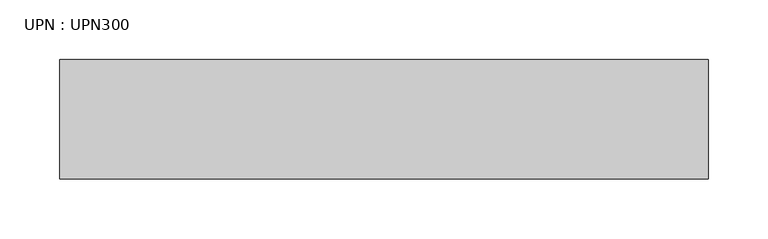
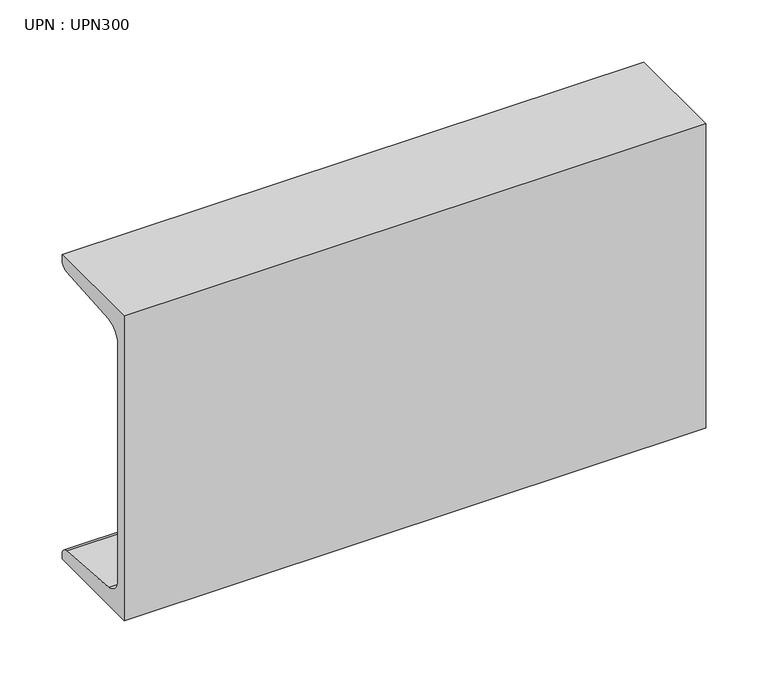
"""IFC4 building model written with IfcOpenShell, lengths in millimetres: beam geometry, UPN : UPN300."""

from ifc_helpers import new_model, si_unit, point, frame, frame_2d, origin, place, context, project, spatial, polyline, circle_curve, trimmed, segment, composite_curve, outline, extrude, source, transform, mapped, element, save


def upn_upn300_8f31fde6(model_context):
    return source(origin(), model_context, "Body", "SweptSolid", [
        extrude(outline(composite_curve([segment(polyline([(-27.0, 150.0), (73.0, 150.0), (73.0, 145.3826224)]), True, "CONTINUOUS"), segment(trimmed(circle_curve(frame_2d((65.0, 145.3826224)), 8.0), [point((73.0, 145.3826224))], [point((65.637416, 137.4080566))], False, "CARTESIAN"), True, "CONTINUOUS"), segment(polyline([(65.637416, 137.4080566), (-2.274832, 131.9797543)]), True, "CONTINUOUS"), segment(trimmed(circle_curve(frame_2d((-1.0, 116.0306225)), 16.0), [point((-2.274832, 131.9797543))], [point((-17.0, 116.0306225))], True, "CARTESIAN"), True, "CONTINUOUS"), segment(polyline([(-17.0, 116.0306225), (-17.0, -116.0306225)]), True, "CONTINUOUS"), segment(trimmed(circle_curve(frame_2d((-1.0, -116.0306225)), 16.0), [point((-17.0, -116.0306225))], [point((-2.274832, -131.9797543))], True, "CARTESIAN"), True, "CONTINUOUS"), segment(polyline([(-2.274832, -131.9797543), (65.637416, -137.4080566)]), True, "CONTINUOUS"), segment(trimmed(circle_curve(frame_2d((65.0, -145.3826224)), 8.0), [point((65.637416, -137.4080566))], [point((73.0, -145.3826224))], False, "CARTESIAN"), True, "CONTINUOUS"), segment(polyline([(73.0, -145.3826224), (73.0, -150.0), (-27.0, -150.0), (-27.0, 150.0)]), True, "CONTINUOUS")], self_intersect=False)), frame((-270.95, 0.0, 0.0), z_axis=(1.0, 0.0, 0.0), x_axis=(0.0, 1.0, 0.0)), (0.0, 0.0, 1.0), 541.9),
    ])


if __name__ == "__main__":
    model = new_model("IFC4")
    model_context = context("Model", 3, world=origin())
    ifc_project = project(units=[si_unit("LENGTHUNIT", "METRE", prefix="MILLI")], contexts=[model_context])
    site = spatial("IfcSite", under=ifc_project)
    building = spatial("IfcBuilding", under=site)
    placement = place(None, origin())
    upn_upn300_shape = upn_upn300_8f31fde6(model_context)
    element("IfcBeam", 1, ObjectType="UPN : UPN300", at=placement, inside=building, context=model_context, shape_type="MappedRepresentation", body=[
        mapped(upn_upn300_shape, transform((0.0, 0.0, 0.0), x_axis=(1.0, 0.0, 0.0), y_axis=(0.0, 1.0, 0.0), z_axis=(0.0, 0.0, 1.0))),
    ])
    save(model, "model.ifc")
